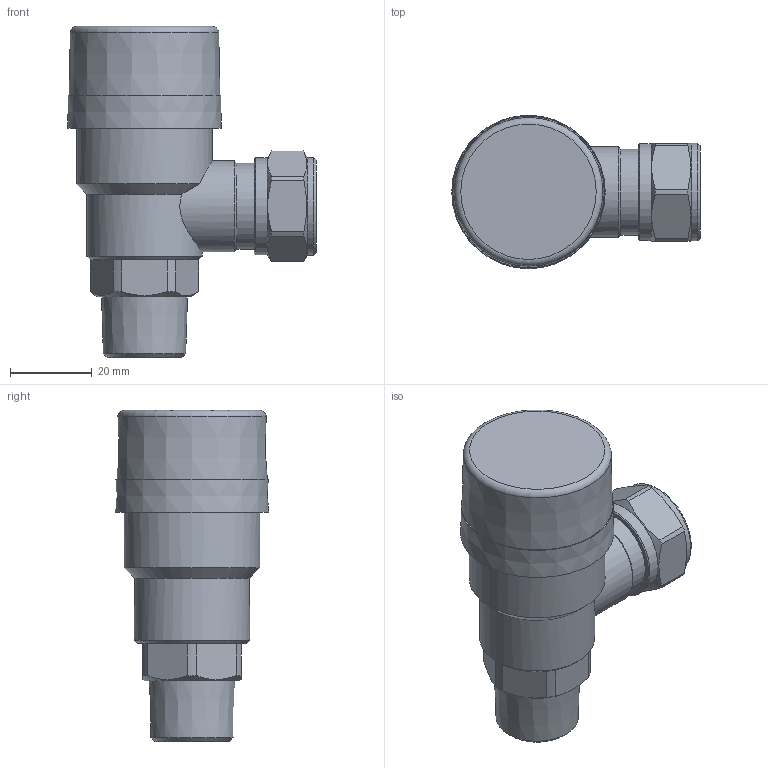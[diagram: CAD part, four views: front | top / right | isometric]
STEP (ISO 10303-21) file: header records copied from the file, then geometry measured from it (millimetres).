
FILE_DESCRIPTION(/* description */ (''),/* implementation_level */ '2;1');
FILE_NAME(/* name */ 'F:\Inventor\3D-CAD\Prescor\Prescor B\28283_prescor_b_1-2_k15_6.stp',/* time_stamp */ '2018-06-07T10:24:01+02:00',/* author */ ('kasius'),/* organization */ (''),/* preprocessor_version */ 'ST-DEVELOPER v16.5',/* originating_system */ 'Autodesk Inventor 2017',/* authorisation */ '');
FILE_SCHEMA (('AUTOMOTIVE_DESIGN { 1 0 10303 214 3 1 1 }'));
Length unit declared in the file: millimetre
Products named in the file (1): 28283_prescor_b_1-2_k15_6
Bounding box: 60.77 x 37.54 x 81 mm (x, y, z)
Volume: 62912.1 mm3; surface area: 14136.5 mm2
Topology: 1 solids, 1 shells, 58 faces, 138 edges, 88 vertices
Faces by surface type: plane 28, cylinder 16, cone 13, torus 1
Full cylindrical faces by diameter (mm): 14.693 x1, 15.144 x1, 20.993 x1, 22.224 x1, 23.702 x1, 23.865 x1, 26.493 x1, 28.163 x1, 33.193 x1
Entity records: 1603 total; most frequent: CARTESIAN_POINT 367, DIRECTION 257, ORIENTED_EDGE 218, AXIS2_PLACEMENT_3D 112, EDGE_CURVE 109, EDGE_LOOP 86, VERTEX_POINT 81, FACE_OUTER_BOUND 58
